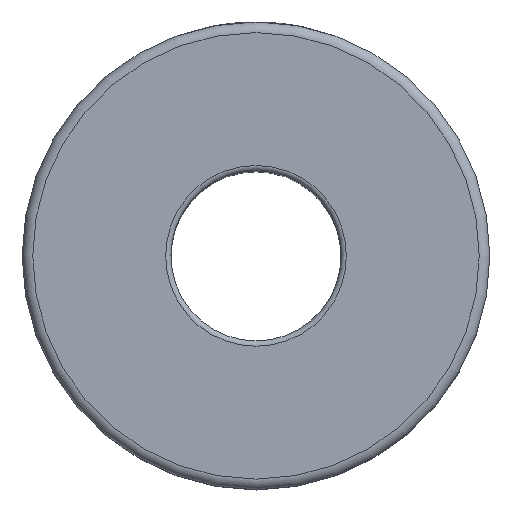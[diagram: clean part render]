
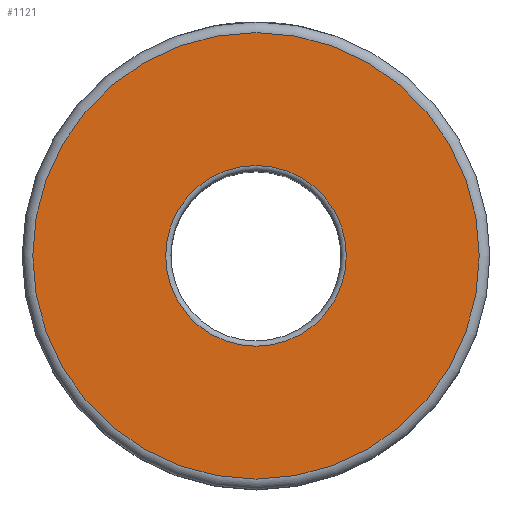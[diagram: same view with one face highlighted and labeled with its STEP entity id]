
A CAD part, top view. The second image highlights one B-rep face of the part: STEP entity #1121.
In plain terms, the highlighted planar face has unit normal (0, 0, 1).
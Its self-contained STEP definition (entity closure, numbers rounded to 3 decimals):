
#34=FACE_BOUND('',#402,.T.);
#231=PLANE('',#1233);
#332=FACE_OUTER_BOUND('',#401,.T.);
#401=EDGE_LOOP('',(#858));
#402=EDGE_LOOP('',(#859));
#487=CIRCLE('',#1229,8.5);
#491=CIRCLE('',#1234,21.);
#560=VERTEX_POINT('',#1988);
#563=VERTEX_POINT('',#1996);
#675=EDGE_CURVE('',#560,#560,#487,.T.);
#679=EDGE_CURVE('',#563,#563,#491,.T.);
#858=ORIENTED_EDGE('',*,*,#679,.F.);
#859=ORIENTED_EDGE('',*,*,#675,.F.);
#1121=ADVANCED_FACE('',(#332,#34),#231,.T.);
#1229=AXIS2_PLACEMENT_3D('',#1989,#1399,#1400);
#1233=AXIS2_PLACEMENT_3D('',#1995,#1407,#1408);
#1234=AXIS2_PLACEMENT_3D('',#1997,#1409,#1410);
#1399=DIRECTION('center_axis',(0.,0.,1.));
#1400=DIRECTION('ref_axis',(0.,1.,0.));
#1407=DIRECTION('center_axis',(0.,0.,1.));
#1408=DIRECTION('ref_axis',(1.,0.,0.));
#1409=DIRECTION('center_axis',(0.,0.,-1.));
#1410=DIRECTION('ref_axis',(0.,1.,0.));
#1988=CARTESIAN_POINT('',(8.5,0.,0.));
#1989=CARTESIAN_POINT('Origin',(0.,0.,0.));
#1995=CARTESIAN_POINT('Origin',(0.,-22.,0.));
#1996=CARTESIAN_POINT('',(21.,0.,0.));
#1997=CARTESIAN_POINT('Origin',(0.,0.,0.));
